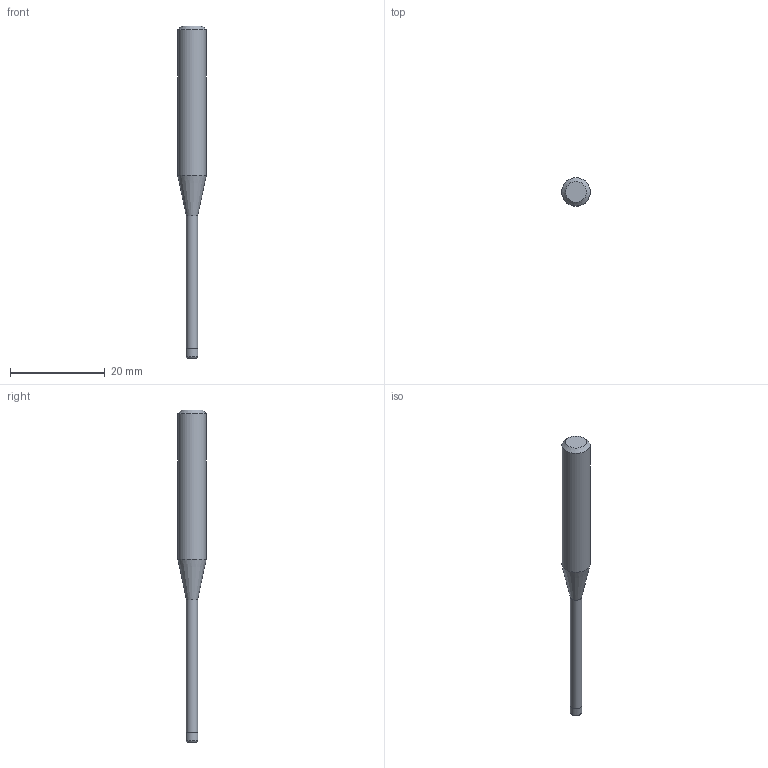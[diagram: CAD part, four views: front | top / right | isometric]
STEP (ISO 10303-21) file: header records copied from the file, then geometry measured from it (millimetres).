
FILE_DESCRIPTION((''),'2;1');
FILE_NAME('C:\Users\nsx150\AppData\Local\Temp\Mastercam 2021\17T8Q8S9EB\TEMP.step','2021-04-21T14:38:48',(''),(''),'STEP Write','Mastercam 2021 ... CNC Software, Inc.','');
FILE_SCHEMA(('AUTOMOTIVE_DESIGN'));
Length unit declared in the file: millimetre
Products named in the file (1): None
Bounding box: 6 x 6 x 70 mm (x, y, z)
Volume: 1145.3 mm3; surface area: 966.1 mm2
Topology: 2 solids, 2 shells, 10 faces, 14 edges, 8 vertices
Faces by surface type: plane 4, cylinder 3, cone 2, torus 1
Full cylindrical faces by diameter (mm): 2.39 x1, 2.5 x1, 6 x1
Entity records: 232 total; most frequent: DIRECTION 40, CARTESIAN_POINT 28, AXIS2_PLACEMENT_3D 20, ORIENTED_EDGE 16, EDGE_LOOP 16, STYLED_ITEM 13, ADVANCED_FACE 10, FACE_BOUND 10
